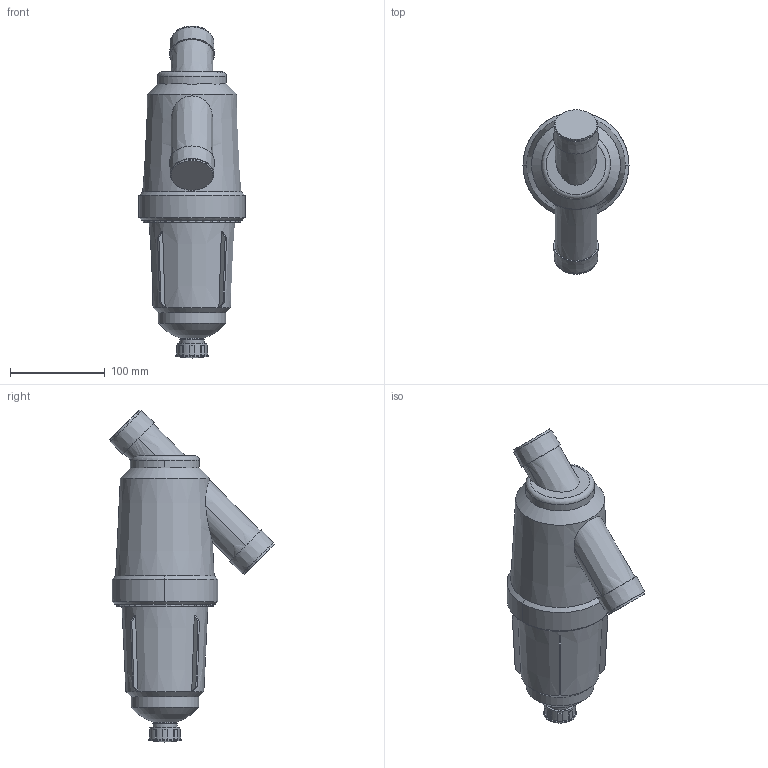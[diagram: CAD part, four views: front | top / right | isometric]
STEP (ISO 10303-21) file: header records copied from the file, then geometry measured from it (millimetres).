
FILE_DESCRIPTION( ( 'Unknown' ), '1' );
FILE_NAME( 'M:/Users/Roy/Dummy/1.5 SUPER FILTER -CAP_1.5inch.stp', 'Unknown', ( 'Unknown' ), ( 'Unknown' ), 'PSStep 10.0', 'Unknown', ' ' );
FILE_SCHEMA( ( 'automotive_design' ) );
Length unit declared in the file: millimetre
Products named in the file (1): 1
Bounding box: 112 x 173.45 x 350.57 mm (x, y, z)
Volume: 2061449 mm3; surface area: 115146.2 mm2
Topology: 1 solids, 1 shells, 98 faces, 241 edges, 159 vertices
Faces by surface type: plane 57, bspline 18, cylinder 12, cone 7, sphere 2, torus 2
Full cylindrical faces by diameter (mm): 26.7 x1, 31.5 x1, 34.7 x1, 71.2 x1
Entity records: 5926 total; most frequent: CARTESIAN_POINT 3048, ORIENTED_EDGE 434, DIRECTION 372, EDGE_CURVE 217, VERTEX_POINT 150, AXIS2_PLACEMENT_3D 138, EDGE_LOOP 127, FACE_OUTER_BOUND 105
